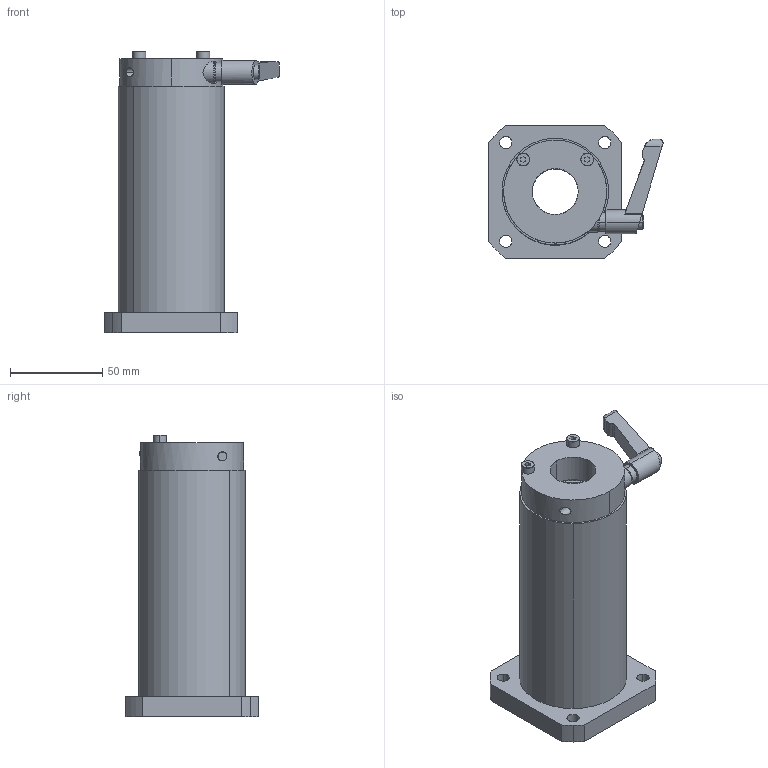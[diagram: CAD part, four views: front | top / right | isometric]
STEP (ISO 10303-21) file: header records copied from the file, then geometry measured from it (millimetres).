
FILE_DESCRIPTION (( 'STEP AP214' ), '1' );
FILE_NAME ('LFWK25MF-CS.STEP', '2023-06-27T02:55:42', ( '' ), ( '' ), 'SwSTEP 2.0', 'SolidWorks 2019', '' );
FILE_SCHEMA (( 'AUTOMOTIVE_DESIGN' ));
Length unit declared in the file: millimetre
Products named in the file (3): LFWK25MF; LFWK25MF-CS; “ÁSCK2515SS-S4.5
Assembly tree (2 placements, depth 2):
  LFWK25MF-CS
    LFWK25MF
    “ÁSCK2515SS-S4.5
Bounding box: 94.6 x 72 x 153 mm (x, y, z)
Volume: 339922.1 mm3; surface area: 61637 mm2
Topology: 3 solids, 5 shells, 174 faces, 461 edges, 290 vertices
Faces by surface type: cylinder 73, plane 66, bspline 16, cone 11, torus 8
Entity records: 7679 total; most frequent: CARTESIAN_POINT 1456, DIRECTION 1006, ORIENTED_EDGE 922, EDGE_CURVE 461, AXIS2_PLACEMENT_3D 414, VERTEX_POINT 290, CIRCLE 251, EDGE_LOOP 207
